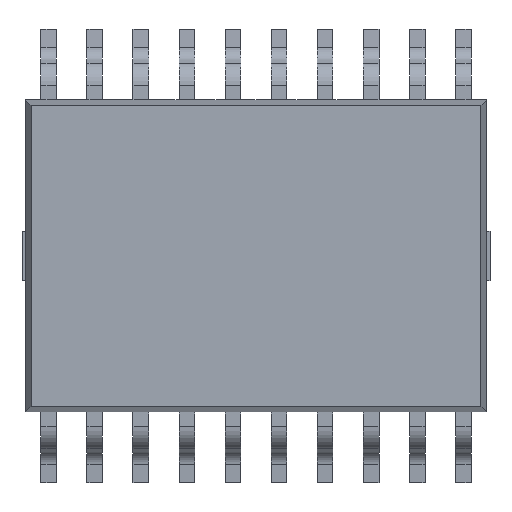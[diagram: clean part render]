
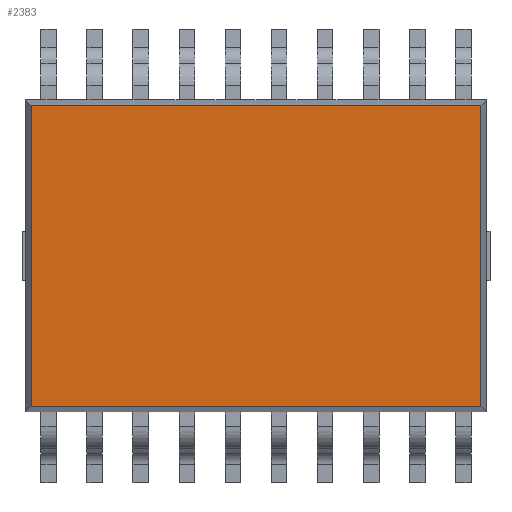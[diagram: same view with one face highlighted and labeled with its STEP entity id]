
A CAD part, top view. The second image highlights one B-rep face of the part: STEP entity #2383.
In plain terms, the highlighted planar face has unit normal (0, 0, 1).
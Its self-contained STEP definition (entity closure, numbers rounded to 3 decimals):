
#114 = EDGE_CURVE ( 'NONE', #5864, #1391, #1767, .T. ) ;
#584 = CARTESIAN_POINT ( 'NONE',  ( 1.453, 1.942, 3.734 ) ) ;
#690 = PLANE ( 'NONE',  #10039 ) ;
#905 = VECTOR ( 'NONE', #8264, 1000. ) ;
#960 = VECTOR ( 'NONE', #2661, 1000. ) ;
#1238 = VECTOR ( 'NONE', #6832, 1000. ) ;
#1391 = VERTEX_POINT ( 'NONE', #5842 ) ;
#1767 = LINE ( 'NONE', #2814, #1893 ) ;
#1893 = VECTOR ( 'NONE', #2248, 1000. ) ;
#1964 = LINE ( 'NONE', #2878, #1238 ) ;
#2248 = DIRECTION ( 'NONE',  ( 0., 1., 0. ) ) ;
#2383 = ADVANCED_FACE ( 'NONE', ( #7523 ), #690, .T. ) ;
#2661 = DIRECTION ( 'NONE',  ( 0., -1., 0. ) ) ;
#2814 = CARTESIAN_POINT ( 'NONE',  ( 4.626, 4.142, 3.734 ) ) ;
#2878 = CARTESIAN_POINT ( 'NONE',  ( -1.797, -0.181, 3.734 ) ) ;
#3714 = CARTESIAN_POINT ( 'NONE',  ( 4.626, -0.181, 3.734 ) ) ;
#4089 = EDGE_CURVE ( 'NONE', #9143, #5864, #1964, .T. ) ;
#4097 = CARTESIAN_POINT ( 'NONE',  ( -1.72, -0.181, 3.734 ) ) ;
#4548 = EDGE_LOOP ( 'NONE', ( #6577, #4622, #6238, #9994 ) ) ;
#4622 = ORIENTED_EDGE ( 'NONE', *, *, #4089, .T. ) ;
#4933 = LINE ( 'NONE', #6612, #960 ) ;
#5057 = CARTESIAN_POINT ( 'NONE',  ( -1.797, 4.065, 3.734 ) ) ;
#5842 = CARTESIAN_POINT ( 'NONE',  ( 4.626, 4.065, 3.734 ) ) ;
#5864 = VERTEX_POINT ( 'NONE', #3714 ) ;
#6238 = ORIENTED_EDGE ( 'NONE', *, *, #114, .T. ) ;
#6577 = ORIENTED_EDGE ( 'NONE', *, *, #9311, .T. ) ;
#6612 = CARTESIAN_POINT ( 'NONE',  ( -1.72, 4.142, 3.734 ) ) ;
#6678 = CARTESIAN_POINT ( 'NONE',  ( -1.72, 4.065, 3.734 ) ) ;
#6832 = DIRECTION ( 'NONE',  ( 1., 0., 0. ) ) ;
#7116 = EDGE_CURVE ( 'NONE', #1391, #9382, #7244, .T. ) ;
#7244 = LINE ( 'NONE', #5057, #905 ) ;
#7523 = FACE_OUTER_BOUND ( 'NONE', #4548, .T. ) ;
#8264 = DIRECTION ( 'NONE',  ( -1., 0., 0. ) ) ;
#8519 = DIRECTION ( 'NONE',  ( 1., 0., 0. ) ) ;
#9143 = VERTEX_POINT ( 'NONE', #4097 ) ;
#9198 = DIRECTION ( 'NONE',  ( 0., 0., 1. ) ) ;
#9311 = EDGE_CURVE ( 'NONE', #9382, #9143, #4933, .T. ) ;
#9382 = VERTEX_POINT ( 'NONE', #6678 ) ;
#9994 = ORIENTED_EDGE ( 'NONE', *, *, #7116, .T. ) ;
#10039 = AXIS2_PLACEMENT_3D ( 'NONE', #584, #9198, #8519 ) ;
